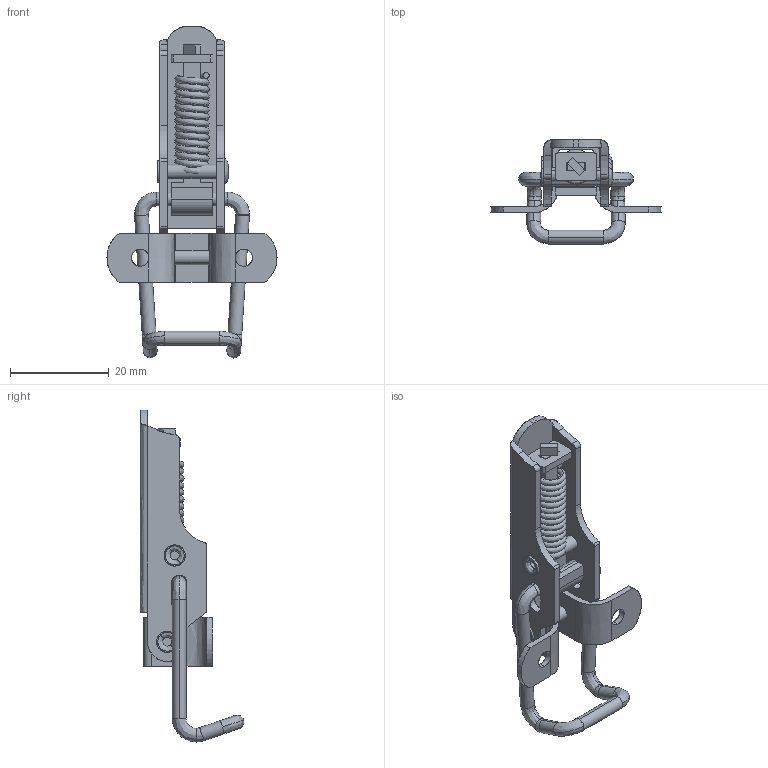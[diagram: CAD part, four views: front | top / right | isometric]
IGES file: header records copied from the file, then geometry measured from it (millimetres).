
Start section: SolidWorks IGES FILE using analytic representation for surfaces
Global section: file name: C:\Documents and Settings\lecoutey\Bureau\GP 544\GP 544.IGS; native system: SolidWorks 2004 by SolidWorks Corporation; preprocessor: Version 5.3; author: lecoutey; date: 050329.152213; units: millimetre
Bounding box: 34.5 x 21.03 x 67.34 mm (x, y, z)
Surface area: 7144.7 mm2 (no closed solid volume)
Topology: 0 solids, 0 shells, 190 faces, 2522 edges, 2518 vertices
Faces by surface type: bspline 110, revolution 80
